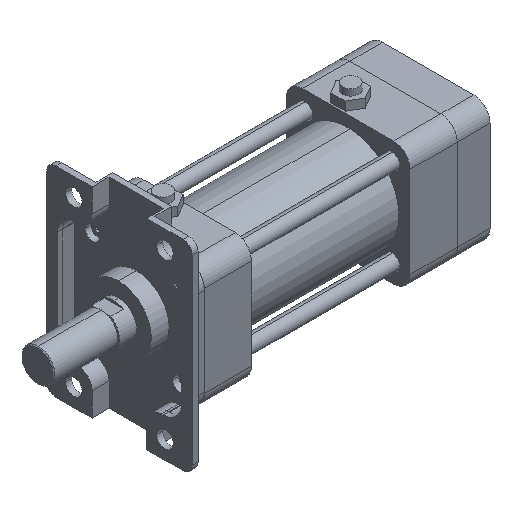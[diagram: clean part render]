
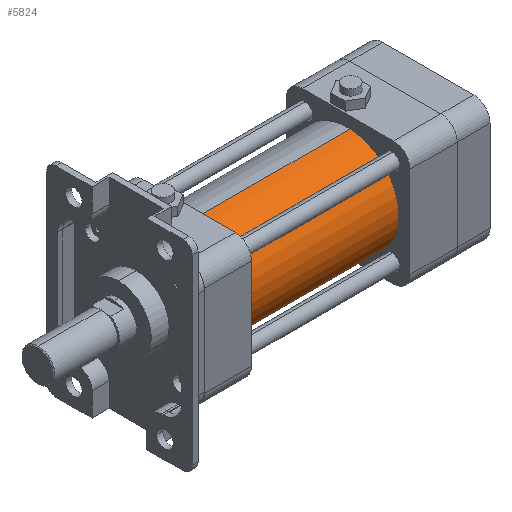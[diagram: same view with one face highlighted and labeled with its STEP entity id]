
A CAD part, isometric view. The second image highlights one B-rep face of the part: STEP entity #5824.
In plain terms, the highlighted cylindrical face has radius 28 mm (diameter 56 mm), a partial arc.
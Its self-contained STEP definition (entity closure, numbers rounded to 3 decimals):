
#422 = EDGE_CURVE ( 'NONE', #1440, #9377, #3570, .T. ) ;
#708 = CIRCLE ( 'NONE', #7569, 28. ) ;
#975 = DIRECTION ( 'NONE',  ( -1., 0., 0. ) ) ;
#1048 = DIRECTION ( 'NONE',  ( -1., 0., 0. ) ) ;
#1440 = VERTEX_POINT ( 'NONE', #2871 ) ;
#1597 = DIRECTION ( 'NONE',  ( -1., 0., 0. ) ) ;
#1629 = CARTESIAN_POINT ( 'NONE',  ( -43.5, 0., 28. ) ) ;
#1887 = EDGE_CURVE ( 'NONE', #9377, #6429, #708, .T. ) ;
#1969 = CARTESIAN_POINT ( 'NONE',  ( 43.5, 0., 28. ) ) ;
#2871 = CARTESIAN_POINT ( 'NONE',  ( 43.5, 0., -28. ) ) ;
#2891 = DIRECTION ( 'NONE',  ( 0., 0., 1. ) ) ;
#3158 = CARTESIAN_POINT ( 'NONE',  ( -29.1, 0., 0. ) ) ;
#3172 = ORIENTED_EDGE ( 'NONE', *, *, #422, .F. ) ;
#3196 = DIRECTION ( 'NONE',  ( -1., 0., 0. ) ) ;
#3570 = LINE ( 'NONE', #10431, #7904 ) ;
#4233 = CARTESIAN_POINT ( 'NONE',  ( -29.1, 0., 28. ) ) ;
#4274 = CARTESIAN_POINT ( 'NONE',  ( 43.5, 0., 0. ) ) ;
#4662 = AXIS2_PLACEMENT_3D ( 'NONE', #3158, #1048, #7705 ) ;
#4919 = CIRCLE ( 'NONE', #5272, 28. ) ;
#5272 = AXIS2_PLACEMENT_3D ( 'NONE', #4274, #1597, #8456 ) ;
#5631 = ORIENTED_EDGE ( 'NONE', *, *, #1887, .F. ) ;
#5811 = EDGE_LOOP ( 'NONE', ( #3172, #8514, #9819, #5631 ) ) ;
#5824 = ADVANCED_FACE ( 'NONE', ( #11132 ), #6784, .T. ) ;
#6429 = VERTEX_POINT ( 'NONE', #1629 ) ;
#6713 = EDGE_CURVE ( 'NONE', #9707, #6429, #11245, .T. ) ;
#6784 = CYLINDRICAL_SURFACE ( 'NONE', #4662, 28. ) ;
#6923 = CARTESIAN_POINT ( 'NONE',  ( -43.5, 0., -28. ) ) ;
#7452 = VECTOR ( 'NONE', #975, 1000. ) ;
#7569 = AXIS2_PLACEMENT_3D ( 'NONE', #8819, #7837, #2891 ) ;
#7705 = DIRECTION ( 'NONE',  ( 0., 0., 1. ) ) ;
#7837 = DIRECTION ( 'NONE',  ( -1., 0., 0. ) ) ;
#7904 = VECTOR ( 'NONE', #3196, 1000. ) ;
#8456 = DIRECTION ( 'NONE',  ( 0., 0., 1. ) ) ;
#8514 = ORIENTED_EDGE ( 'NONE', *, *, #8902, .T. ) ;
#8819 = CARTESIAN_POINT ( 'NONE',  ( -43.5, 0., 0. ) ) ;
#8902 = EDGE_CURVE ( 'NONE', #1440, #9707, #4919, .T. ) ;
#9377 = VERTEX_POINT ( 'NONE', #6923 ) ;
#9707 = VERTEX_POINT ( 'NONE', #1969 ) ;
#9819 = ORIENTED_EDGE ( 'NONE', *, *, #6713, .T. ) ;
#10431 = CARTESIAN_POINT ( 'NONE',  ( -29.1, 0., -28. ) ) ;
#11132 = FACE_OUTER_BOUND ( 'NONE', #5811, .T. ) ;
#11245 = LINE ( 'NONE', #4233, #7452 ) ;
